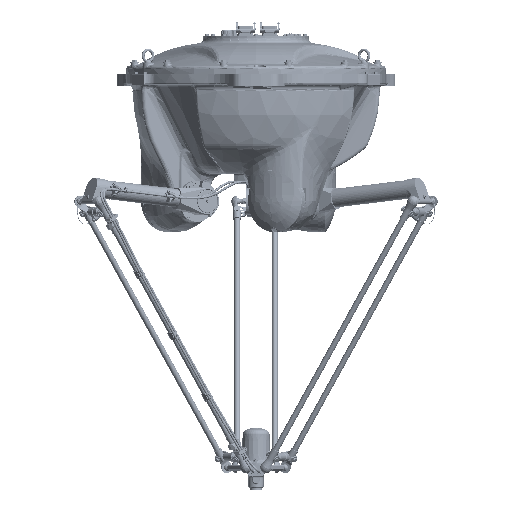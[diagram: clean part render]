
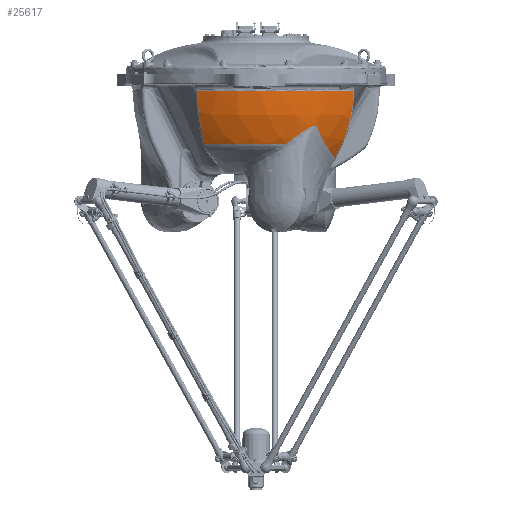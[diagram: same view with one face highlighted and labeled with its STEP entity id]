
A CAD part, front view. The second image highlights one B-rep face of the part: STEP entity #25617.
In plain terms, the highlighted spherical face has radius 360 mm.
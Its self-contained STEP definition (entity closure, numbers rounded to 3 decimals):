
#15236=CARTESIAN_POINT('Axis2P3D Location',(0.,0.,166.921)) ;
#15240=CARTESIAN_POINT('Vertex',(87.807,-313.778,166.921)) ;
#15242=CARTESIAN_POINT('Vertex',(-149.898,-289.305,166.921)) ;
#23160=CARTESIAN_POINT('Vertex',(283.801,-221.488,320.)) ;
#23241=CARTESIAN_POINT('Vertex',(283.798,-221.492,319.817)) ;
#23258=CARTESIAN_POINT('Control Point',(283.798,-221.492,319.817)) ;
#23259=CARTESIAN_POINT('Control Point',(283.799,-221.491,319.878)) ;
#23260=CARTESIAN_POINT('Control Point',(283.8,-221.489,319.939)) ;
#23261=CARTESIAN_POINT('Control Point',(283.801,-221.488,320.)) ;
#25291=CARTESIAN_POINT('Vertex',(177.519,-296.814,220.058)) ;
#25383=CARTESIAN_POINT('Vertex',(151.905,-308.329,212.956)) ;
#25387=CARTESIAN_POINT('Control Point',(151.905,-308.329,212.956)) ;
#25388=CARTESIAN_POINT('Control Point',(146.181,-309.972,209.568)) ;
#25389=CARTESIAN_POINT('Control Point',(140.526,-311.319,205.969)) ;
#25390=CARTESIAN_POINT('Control Point',(134.934,-312.397,202.227)) ;
#25391=CARTESIAN_POINT('Control Point',(121.919,-314.346,193.18)) ;
#25392=CARTESIAN_POINT('Control Point',(109.197,-314.991,183.686)) ;
#25393=CARTESIAN_POINT('Control Point',(101.975,-314.964,178.145)) ;
#25394=CARTESIAN_POINT('Control Point',(94.842,-314.555,172.549)) ;
#25395=CARTESIAN_POINT('Control Point',(87.807,-313.778,166.921)) ;
#25501=CARTESIAN_POINT('Axis2P3D Location',(0.,0.,320.)) ;
#25507=CARTESIAN_POINT('Control Point',(177.519,-296.814,220.058)) ;
#25508=CARTESIAN_POINT('Control Point',(182.426,-288.315,203.533)) ;
#25509=CARTESIAN_POINT('Control Point',(188.322,-278.102,188.29)) ;
#25510=CARTESIAN_POINT('Control Point',(195.077,-266.403,174.714)) ;
#25511=CARTESIAN_POINT('Control Point',(202.449,-253.634,163.095)) ;
#25512=CARTESIAN_POINT('Control Point',(210.235,-240.148,153.476)) ;
#25513=CARTESIAN_POINT('Vertex',(210.235,-240.148,153.476)) ;
#25517=CARTESIAN_POINT('Control Point',(210.231,-240.149,153.473)) ;
#25518=CARTESIAN_POINT('Control Point',(210.233,-240.149,153.475)) ;
#25519=CARTESIAN_POINT('Control Point',(210.235,-240.148,153.476)) ;
#25520=CARTESIAN_POINT('Vertex',(210.231,-240.149,153.473)) ;
#25524=CARTESIAN_POINT('Control Point',(210.231,-240.149,153.473)) ;
#25525=CARTESIAN_POINT('Control Point',(211.382,-238.149,152.042)) ;
#25526=CARTESIAN_POINT('Control Point',(212.51,-236.136,150.618)) ;
#25527=CARTESIAN_POINT('Control Point',(213.616,-234.108,149.2)) ;
#25528=CARTESIAN_POINT('Control Point',(215.061,-231.387,147.321)) ;
#25529=CARTESIAN_POINT('Control Point',(216.464,-228.647,145.457)) ;
#25530=CARTESIAN_POINT('Control Point',(216.813,-227.958,144.99)) ;
#25531=CARTESIAN_POINT('Control Point',(220.103,-221.411,140.571)) ;
#25532=CARTESIAN_POINT('Control Point',(223.16,-214.752,136.24)) ;
#25533=CARTESIAN_POINT('Control Point',(225.707,-208.716,132.438)) ;
#25534=CARTESIAN_POINT('Control Point',(228.063,-202.61,128.708)) ;
#25535=CARTESIAN_POINT('Control Point',(230.224,-196.448,125.051)) ;
#25536=CARTESIAN_POINT('Vertex',(230.224,-196.448,125.051)) ;
#25540=CARTESIAN_POINT('Control Point',(230.224,-196.448,125.051)) ;
#25541=CARTESIAN_POINT('Control Point',(237.434,-200.238,137.385)) ;
#25542=CARTESIAN_POINT('Control Point',(244.104,-203.703,150.154)) ;
#25543=CARTESIAN_POINT('Control Point',(250.198,-206.824,163.302)) ;
#25544=CARTESIAN_POINT('Control Point',(262.225,-212.876,192.797)) ;
#25545=CARTESIAN_POINT('Control Point',(271.312,-217.19,223.653)) ;
#25546=CARTESIAN_POINT('Control Point',(275.344,-219.002,240.7)) ;
#25547=CARTESIAN_POINT('Control Point',(280.041,-220.927,266.748)) ;
#25548=CARTESIAN_POINT('Control Point',(282.629,-221.624,293.114)) ;
#25549=CARTESIAN_POINT('Control Point',(283.26,-221.719,302.007)) ;
#25550=CARTESIAN_POINT('Control Point',(283.649,-221.675,310.911)) ;
#25551=CARTESIAN_POINT('Control Point',(283.798,-221.492,319.817)) ;
#25553=CARTESIAN_POINT('Axis2P3D Location',(0.,0.,320.)) ;
#25557=CARTESIAN_POINT('Vertex',(187.307,-307.435,320.)) ;
#25560=CARTESIAN_POINT('Axis2P3D Location',(0.,0.,320.)) ;
#25564=CARTESIAN_POINT('Vertex',(-170.803,-316.901,320.)) ;
#25568=CARTESIAN_POINT('Control Point',(-170.189,-317.028,308.638)) ;
#25569=CARTESIAN_POINT('Control Point',(-170.336,-317.084,312.42)) ;
#25570=CARTESIAN_POINT('Control Point',(-170.536,-317.045,316.21)) ;
#25571=CARTESIAN_POINT('Control Point',(-170.803,-316.901,320.)) ;
#25572=CARTESIAN_POINT('Vertex',(-170.189,-317.028,308.638)) ;
#25576=CARTESIAN_POINT('Control Point',(-149.898,-289.305,166.921)) ;
#25577=CARTESIAN_POINT('Control Point',(-156.766,-299.807,193.494)) ;
#25578=CARTESIAN_POINT('Control Point',(-162.303,-307.939,221.352)) ;
#25579=CARTESIAN_POINT('Control Point',(-166.405,-313.544,250.003)) ;
#25580=CARTESIAN_POINT('Control Point',(-169.048,-316.588,279.272)) ;
#25581=CARTESIAN_POINT('Control Point',(-170.189,-317.028,308.638)) ;
#25584=CARTESIAN_POINT('Control Point',(151.905,-308.329,212.956)) ;
#25585=CARTESIAN_POINT('Control Point',(154.852,-307.482,214.701)) ;
#25586=CARTESIAN_POINT('Control Point',(157.855,-306.5,216.278)) ;
#25587=CARTESIAN_POINT('Control Point',(160.907,-305.372,217.649)) ;
#25588=CARTESIAN_POINT('Control Point',(165.264,-303.553,219.204)) ;
#25589=CARTESIAN_POINT('Control Point',(169.569,-301.429,220.05)) ;
#25590=CARTESIAN_POINT('Control Point',(170.817,-300.783,220.231)) ;
#25591=CARTESIAN_POINT('Control Point',(172.511,-299.864,220.379)) ;
#25592=CARTESIAN_POINT('Control Point',(174.158,-298.907,220.382)) ;
#25593=CARTESIAN_POINT('Control Point',(174.605,-298.643,220.372)) ;
#25594=CARTESIAN_POINT('Control Point',(175.261,-298.248,220.339)) ;
#25595=CARTESIAN_POINT('Control Point',(175.906,-297.848,220.283)) ;
#25596=CARTESIAN_POINT('Control Point',(176.115,-297.718,220.261)) ;
#25597=CARTESIAN_POINT('Control Point',(176.524,-297.46,220.215)) ;
#25598=CARTESIAN_POINT('Control Point',(176.928,-297.2,220.158)) ;
#25599=CARTESIAN_POINT('Control Point',(177.126,-297.072,220.127)) ;
#25600=CARTESIAN_POINT('Control Point',(177.323,-296.943,220.093)) ;
#25601=CARTESIAN_POINT('Control Point',(177.519,-296.814,220.058)) ;
#15237=DIRECTION('Axis2P3D Direction',(0.,0.,1.)) ;
#25502=DIRECTION('Axis2P3D Direction',(0.,0.,-1.)) ;
#25503=DIRECTION('Axis2P3D XDirection',(0.878,-0.479,0.)) ;
#25554=DIRECTION('Axis2P3D Direction',(0.,0.,-1.)) ;
#25561=DIRECTION('Axis2P3D Direction',(0.,0.,-1.)) ;
#15238=AXIS2_PLACEMENT_3D('Circle Axis2P3D',#15236,#15237,$) ;
#25504=AXIS2_PLACEMENT_3D('Sphere Axis2P3D',#25501,#25502,#25503) ;
#25555=AXIS2_PLACEMENT_3D('Circle Axis2P3D',#25553,#25554,$) ;
#25562=AXIS2_PLACEMENT_3D('Circle Axis2P3D',#25560,#25561,$) ;
#25604=ORIENTED_EDGE('',*,*,#25515,.F.) ;
#25605=ORIENTED_EDGE('',*,*,#25522,.F.) ;
#25606=ORIENTED_EDGE('',*,*,#25538,.T.) ;
#25607=ORIENTED_EDGE('',*,*,#25552,.T.) ;
#25608=ORIENTED_EDGE('',*,*,#23262,.T.) ;
#25609=ORIENTED_EDGE('',*,*,#25559,.T.) ;
#25610=ORIENTED_EDGE('',*,*,#25566,.T.) ;
#25611=ORIENTED_EDGE('',*,*,#25574,.T.) ;
#25612=ORIENTED_EDGE('',*,*,#25582,.T.) ;
#25613=ORIENTED_EDGE('',*,*,#15244,.F.) ;
#25614=ORIENTED_EDGE('',*,*,#25396,.T.) ;
#25615=ORIENTED_EDGE('',*,*,#25602,.T.) ;
#25617=ADVANCED_FACE('BASE',(#25616),#25505,.T.) ;
#23257=B_SPLINE_CURVE_WITH_KNOTS('',3,(#23258,#23259,#23260,#23261),.UNSPECIFIED.,.F.,.U.,(4,4),(184.253,184.428),.UNSPECIFIED.) ;
#25386=B_SPLINE_CURVE_WITH_KNOTS('',5,(#25387,#25388,#25389,#25390,#25391,#25392,#25393,#25394,#25395),.UNSPECIFIED.,.F.,.U.,(6,3,6),(426.204,459.397,504.28),.UNSPECIFIED.) ;
#25506=B_SPLINE_CURVE_WITH_KNOTS('',5,(#25507,#25508,#25509,#25510,#25511,#25512),.UNSPECIFIED.,.F.,.U.,(6,6),(0.,136.196),.UNSPECIFIED.) ;
#25516=B_SPLINE_CURVE_WITH_KNOTS('',2,(#25517,#25518,#25519),.UNSPECIFIED.,.F.,.U.,(3,3),(-0.003,0.003),.UNSPECIFIED.) ;
#25523=B_SPLINE_CURVE_WITH_KNOTS('',5,(#25524,#25525,#25526,#25527,#25528,#25529,#25530,#25531,#25532,#25533,#25534,#25535),.UNSPECIFIED.,.F.,.U.,(6,3,3,6),(0.,19.95,26.633,83.336),.UNSPECIFIED.) ;
#25539=B_SPLINE_CURVE_WITH_KNOTS('',5,(#25540,#25541,#25542,#25543,#25544,#25545,#25546,#25547,#25548,#25549,#25550,#25551),.UNSPECIFIED.,.F.,.U.,(6,3,3,6),(0.,104.813,229.158,292.169),.UNSPECIFIED.) ;
#25567=B_SPLINE_CURVE_WITH_KNOTS('',3,(#25568,#25569,#25570,#25571),.UNSPECIFIED.,.F.,.U.,(4,4),(0.,16.096),.UNSPECIFIED.) ;
#25575=B_SPLINE_CURVE_WITH_KNOTS('',5,(#25576,#25577,#25578,#25579,#25580,#25581),.UNSPECIFIED.,.F.,.U.,(6,6),(0.,208.311),.UNSPECIFIED.) ;
#25583=B_SPLINE_CURVE_WITH_KNOTS('',5,(#25584,#25585,#25586,#25587,#25588,#25589,#25590,#25591,#25592,#25593,#25594,#25595,#25596,#25597,#25598,#25599,#25600,#25601),.UNSPECIFIED.,.F.,.U.,(6,3,3,3,3,6),(0.,24.904,35.157,39.021,40.887,42.701),.UNSPECIFIED.) ;
#15239=CIRCLE('generated circle',#15238,325.832) ;
#25556=CIRCLE('generated circle',#25555,360.) ;
#25563=CIRCLE('generated circle',#25562,360.) ;
#15244=EDGE_CURVE('',#15241,#15243,#15239,.F.) ;
#23262=EDGE_CURVE('',#23242,#23161,#23257,.T.) ;
#25396=EDGE_CURVE('',#15241,#25384,#25386,.F.) ;
#25515=EDGE_CURVE('',#25514,#25292,#25506,.F.) ;
#25522=EDGE_CURVE('',#25521,#25514,#25516,.T.) ;
#25538=EDGE_CURVE('',#25521,#25537,#25523,.T.) ;
#25552=EDGE_CURVE('',#25537,#23242,#25539,.T.) ;
#25559=EDGE_CURVE('',#23161,#25558,#25556,.T.) ;
#25566=EDGE_CURVE('',#25558,#25565,#25563,.T.) ;
#25574=EDGE_CURVE('',#25565,#25573,#25567,.F.) ;
#25582=EDGE_CURVE('',#25573,#15243,#25575,.F.) ;
#25602=EDGE_CURVE('',#25384,#25292,#25583,.T.) ;
#25603=EDGE_LOOP('',(#25604,#25605,#25606,#25607,#25608,#25609,#25610,#25611,#25612,#25613,#25614,#25615)) ;
#25616=FACE_OUTER_BOUND('',#25603,.T.) ;
#25505=SPHERICAL_SURFACE('',#25504,360.) ;
#15241=VERTEX_POINT('',#15240) ;
#15243=VERTEX_POINT('',#15242) ;
#23161=VERTEX_POINT('',#23160) ;
#23242=VERTEX_POINT('',#23241) ;
#25292=VERTEX_POINT('',#25291) ;
#25384=VERTEX_POINT('',#25383) ;
#25514=VERTEX_POINT('',#25513) ;
#25521=VERTEX_POINT('',#25520) ;
#25537=VERTEX_POINT('',#25536) ;
#25558=VERTEX_POINT('',#25557) ;
#25565=VERTEX_POINT('',#25564) ;
#25573=VERTEX_POINT('',#25572) ;
